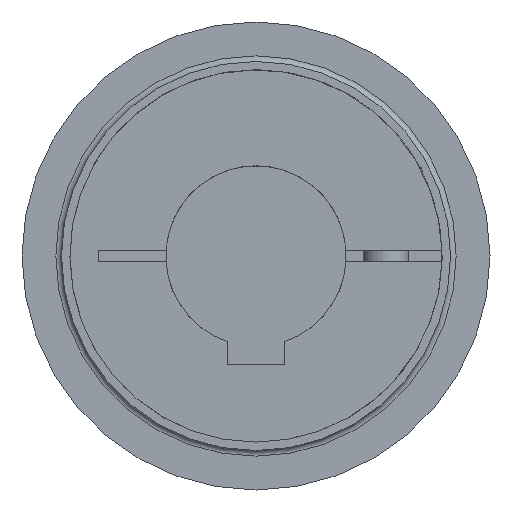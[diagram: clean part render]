
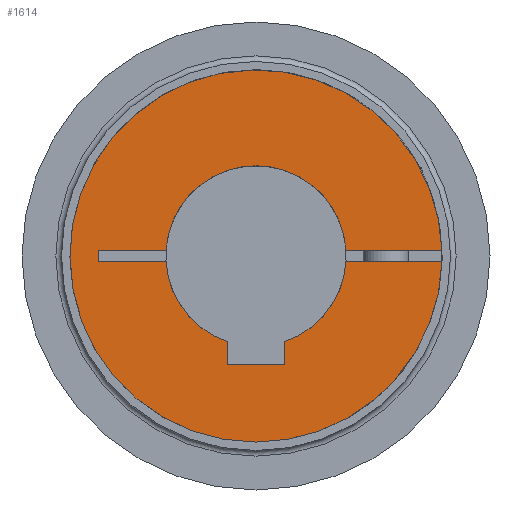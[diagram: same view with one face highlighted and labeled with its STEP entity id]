
A CAD part, left-side view. The second image highlights one B-rep face of the part: STEP entity #1614.
In plain terms, the highlighted planar face has unit normal (-1, 0, 0).
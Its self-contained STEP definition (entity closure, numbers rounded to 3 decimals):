
#24=PLANE('',#1855);
#149=LINE('',#2938,#252);
#152=LINE('',#2944,#255);
#153=LINE('',#2946,#256);
#164=LINE('',#2967,#267);
#165=LINE('',#2969,#268);
#166=LINE('',#2971,#269);
#167=LINE('',#2973,#270);
#168=LINE('',#2974,#271);
#252=VECTOR('',#2265,1.);
#255=VECTOR('',#2270,1.);
#256=VECTOR('',#2273,1.);
#267=VECTOR('',#2296,1.);
#268=VECTOR('',#2299,1.);
#269=VECTOR('',#2300,1.);
#270=VECTOR('',#2301,1.);
#271=VECTOR('',#2302,1.);
#387=FACE_OUTER_BOUND('',#490,.T.);
#490=EDGE_LOOP('',(#1332,#1333,#1334,#1335,#1336,#1337,#1338,#1339,#1340,
#1341,#1342,#1343,#1344));
#652=CIRCLE('',#1790,33.);
#655=CIRCLE('',#1793,33.);
#686=CIRCLE('',#1839,16.);
#689=CIRCLE('',#1843,16.);
#691=CIRCLE('',#1845,16.);
#761=VERTEX_POINT('',#2634);
#762=VERTEX_POINT('',#2636);
#767=VERTEX_POINT('',#2646);
#808=VERTEX_POINT('',#2908);
#809=VERTEX_POINT('',#2909);
#814=VERTEX_POINT('',#2920);
#815=VERTEX_POINT('',#2922);
#818=VERTEX_POINT('',#2928);
#819=VERTEX_POINT('',#2930);
#821=VERTEX_POINT('',#2936);
#823=VERTEX_POINT('',#2942);
#828=VERTEX_POINT('',#2970);
#829=VERTEX_POINT('',#2972);
#946=EDGE_CURVE('',#761,#762,#652,.T.);
#952=EDGE_CURVE('',#767,#761,#655,.T.);
#1005=EDGE_CURVE('',#808,#809,#686,.T.);
#1011=EDGE_CURVE('',#815,#814,#689,.T.);
#1015=EDGE_CURVE('',#819,#818,#691,.T.);
#1019=EDGE_CURVE('',#818,#821,#149,.T.);
#1022=EDGE_CURVE('',#821,#823,#152,.T.);
#1023=EDGE_CURVE('',#823,#815,#153,.T.);
#1034=EDGE_CURVE('',#809,#762,#164,.T.);
#1035=EDGE_CURVE('',#767,#819,#165,.T.);
#1036=EDGE_CURVE('',#814,#828,#166,.T.);
#1037=EDGE_CURVE('',#828,#829,#167,.T.);
#1038=EDGE_CURVE('',#829,#808,#168,.T.);
#1332=ORIENTED_EDGE('',*,*,#1005,.T.);
#1333=ORIENTED_EDGE('',*,*,#1034,.T.);
#1334=ORIENTED_EDGE('',*,*,#946,.F.);
#1335=ORIENTED_EDGE('',*,*,#952,.F.);
#1336=ORIENTED_EDGE('',*,*,#1035,.T.);
#1337=ORIENTED_EDGE('',*,*,#1015,.T.);
#1338=ORIENTED_EDGE('',*,*,#1019,.T.);
#1339=ORIENTED_EDGE('',*,*,#1022,.T.);
#1340=ORIENTED_EDGE('',*,*,#1023,.T.);
#1341=ORIENTED_EDGE('',*,*,#1011,.T.);
#1342=ORIENTED_EDGE('',*,*,#1036,.T.);
#1343=ORIENTED_EDGE('',*,*,#1037,.T.);
#1344=ORIENTED_EDGE('',*,*,#1038,.T.);
#1614=ADVANCED_FACE('',(#387),#24,.T.);
#1790=AXIS2_PLACEMENT_3D('',#2637,#2124,#2125);
#1793=AXIS2_PLACEMENT_3D('',#2648,#2133,#2134);
#1839=AXIS2_PLACEMENT_3D('',#2910,#2241,#2242);
#1843=AXIS2_PLACEMENT_3D('',#2923,#2252,#2253);
#1845=AXIS2_PLACEMENT_3D('',#2931,#2258,#2259);
#1855=AXIS2_PLACEMENT_3D('',#2968,#2297,#2298);
#2124=DIRECTION('center_axis',(1.,0.,0.));
#2125=DIRECTION('ref_axis',(0.,0.,1.));
#2133=DIRECTION('center_axis',(1.,0.,0.));
#2134=DIRECTION('ref_axis',(0.,0.,1.));
#2241=DIRECTION('center_axis',(1.,0.,0.));
#2242=DIRECTION('ref_axis',(0.,0.,-1.));
#2252=DIRECTION('center_axis',(1.,0.,0.));
#2253=DIRECTION('ref_axis',(0.,0.,-1.));
#2258=DIRECTION('center_axis',(1.,0.,0.));
#2259=DIRECTION('ref_axis',(0.,0.,-1.));
#2265=DIRECTION('',(0.,0.,-1.));
#2270=DIRECTION('',(0.,1.,0.));
#2273=DIRECTION('',(0.,0.,1.));
#2296=DIRECTION('',(0.,-1.,0.));
#2297=DIRECTION('center_axis',(-1.,0.,0.));
#2298=DIRECTION('ref_axis',(0.,0.,-1.));
#2299=DIRECTION('',(0.,1.,0.));
#2300=DIRECTION('',(0.,1.,0.));
#2301=DIRECTION('',(0.,0.,1.));
#2302=DIRECTION('',(0.,-1.,0.));
#2634=CARTESIAN_POINT('',(0.,0.,-33.));
#2636=CARTESIAN_POINT('',(0.,-32.985,1.));
#2637=CARTESIAN_POINT('Origin',(0.,0.,0.));
#2646=CARTESIAN_POINT('',(0.,-32.985,-1.));
#2648=CARTESIAN_POINT('Origin',(0.,0.,0.));
#2908=CARTESIAN_POINT('',(0.,15.969,1.));
#2909=CARTESIAN_POINT('',(0.,-15.969,1.));
#2910=CARTESIAN_POINT('Origin',(0.,0.,0.));
#2920=CARTESIAN_POINT('',(0.,15.969,-1.));
#2922=CARTESIAN_POINT('',(0.,5.,-15.199));
#2923=CARTESIAN_POINT('Origin',(0.,0.,0.));
#2928=CARTESIAN_POINT('',(0.,-5.,-15.199));
#2930=CARTESIAN_POINT('',(0.,-15.969,-1.));
#2931=CARTESIAN_POINT('Origin',(0.,0.,0.));
#2936=CARTESIAN_POINT('',(0.,-5.,-19.3));
#2938=CARTESIAN_POINT('',(0.,-5.,3.425));
#2942=CARTESIAN_POINT('',(0.,5.,-19.3));
#2944=CARTESIAN_POINT('',(0.,0.,-19.3));
#2946=CARTESIAN_POINT('',(0.,5.,3.425));
#2967=CARTESIAN_POINT('',(0.,-1.5,1.));
#2968=CARTESIAN_POINT('Origin',(0.,0.,16.5));
#2969=CARTESIAN_POINT('',(0.,-1.5,-1.));
#2970=CARTESIAN_POINT('',(0.,28.,-1.));
#2971=CARTESIAN_POINT('',(0.,-1.5,-1.));
#2972=CARTESIAN_POINT('',(0.,28.,1.));
#2973=CARTESIAN_POINT('',(0.,28.,8.25));
#2974=CARTESIAN_POINT('',(0.,-1.5,1.));
